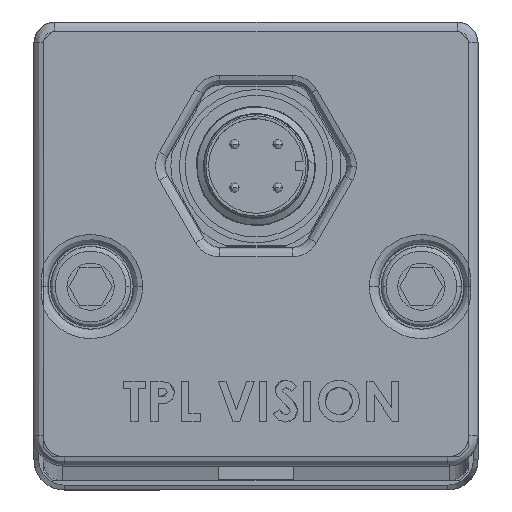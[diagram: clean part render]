
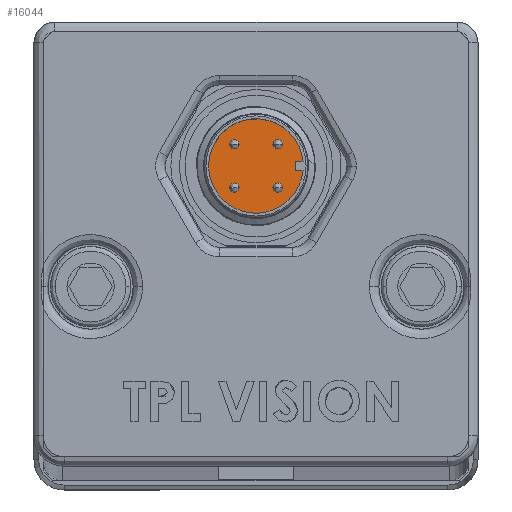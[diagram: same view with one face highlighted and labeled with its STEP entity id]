
A CAD part, top view. The second image highlights one B-rep face of the part: STEP entity #16044.
In plain terms, the highlighted planar face has unit normal (0, 0, 1).
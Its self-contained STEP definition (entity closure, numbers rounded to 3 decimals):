
#717 = CARTESIAN_POINT ( 'NONE',  ( -23.7, 18.774, 1009.1 ) ) ;
#1114 = CARTESIAN_POINT ( 'NONE',  ( -19.104, 14.178, 1009.1 ) ) ;
#1121 = CARTESIAN_POINT ( 'NONE',  ( -19.104, 18.774, 1009.1 ) ) ;
#1155 = CARTESIAN_POINT ( 'NONE',  ( -24.7, 14.178, 1009.1 ) ) ;
#1255 = CARTESIAN_POINT ( 'NONE',  ( -20.104, 14.178, 1009.1 ) ) ;
#1256 = DIRECTION ( 'NONE',  ( 1., 0., 0. ) ) ;
#1257 = DIRECTION ( 'NONE',  ( 0., 0., 1. ) ) ;
#1258 = CARTESIAN_POINT ( 'NONE',  ( -19.604, 14.178, 1009.1 ) ) ;
#1259 = AXIS2_PLACEMENT_3D ( 'NONE', #1258, #1257, #1256 ) ;
#1260 = CIRCLE ( 'NONE', #1259, 0.5 ) ;
#1263 = CARTESIAN_POINT ( 'NONE',  ( -24.7, 18.774, 1009.1 ) ) ;
#1366 = AXIS2_PLACEMENT_3D ( 'NONE', #1451, #1450, #1449 ) ;
#1367 = CIRCLE ( 'NONE', #1366, 0.5 ) ;
#1448 = CARTESIAN_POINT ( 'NONE',  ( -20.104, 18.774, 1009.1 ) ) ;
#1449 = DIRECTION ( 'NONE',  ( 1., 0., 0. ) ) ;
#1450 = DIRECTION ( 'NONE',  ( 0., 0., 1. ) ) ;
#1451 = CARTESIAN_POINT ( 'NONE',  ( -19.604, 18.774, 1009.1 ) ) ;
#1974 = DIRECTION ( 'NONE',  ( 0., 0., 1. ) ) ;
#1975 = CARTESIAN_POINT ( 'NONE',  ( -24.2, 18.774, 1009.1 ) ) ;
#1976 = AXIS2_PLACEMENT_3D ( 'NONE', #1975, #1974, #2050 ) ;
#1977 = CIRCLE ( 'NONE', #1976, 0.5 ) ;
#2050 = DIRECTION ( 'NONE',  ( 1., 0., 0. ) ) ;
#11154 = VERTEX_POINT ( 'NONE', #36321 ) ;
#11156 = EDGE_CURVE ( 'NONE', #11154, #11520, #36319, .T. ) ;
#11446 = VERTEX_POINT ( 'NONE', #717 ) ;
#11518 = VERTEX_POINT ( 'NONE', #1121 ) ;
#11520 = VERTEX_POINT ( 'NONE', #1155 ) ;
#11530 = VERTEX_POINT ( 'NONE', #1114 ) ;
#11544 = EDGE_CURVE ( 'NONE', #11530, #11545, #1260, .T. ) ;
#11545 = VERTEX_POINT ( 'NONE', #1255 ) ;
#11638 = VERTEX_POINT ( 'NONE', #1263 ) ;
#11657 = EDGE_CURVE ( 'NONE', #11518, #11658, #1367, .T. ) ;
#11658 = VERTEX_POINT ( 'NONE', #1448 ) ;
#11702 = EDGE_CURVE ( 'NONE', #11446, #11638, #1977, .T. ) ;
#15486 = EDGE_CURVE ( 'NONE', #15571, #15610, #22520, .T. ) ;
#15557 = EDGE_CURVE ( 'NONE', #11545, #11530, #22625, .T. ) ;
#15565 = EDGE_CURVE ( 'NONE', #11658, #11518, #22605, .T. ) ;
#15569 = EDGE_CURVE ( 'NONE', #15570, #15571, #22660, .T. ) ;
#15570 = VERTEX_POINT ( 'NONE', #22655 ) ;
#15571 = VERTEX_POINT ( 'NONE', #22656 ) ;
#15597 = EDGE_CURVE ( 'NONE', #15598, #15570, #22980, .T. ) ;
#15598 = VERTEX_POINT ( 'NONE', #22976 ) ;
#15609 = EDGE_CURVE ( 'NONE', #15610, #15598, #22963, .T. ) ;
#15610 = VERTEX_POINT ( 'NONE', #22959 ) ;
#15675 = EDGE_CURVE ( 'NONE', #11638, #11446, #23700, .T. ) ;
#15682 = EDGE_CURVE ( 'NONE', #11520, #11154, #23742, .T. ) ;
#15811 = ORIENTED_EDGE ( 'NONE', *, *, #15565, .F. ) ;
#15813 = ORIENTED_EDGE ( 'NONE', *, *, #11657, .F. ) ;
#15897 = ORIENTED_EDGE ( 'NONE', *, *, #11544, .F. ) ;
#15980 = EDGE_LOOP ( 'NONE', ( #15982, #16334 ) ) ;
#15982 = ORIENTED_EDGE ( 'NONE', *, *, #15675, .F. ) ;
#16044 = ADVANCED_FACE ( 'NONE', ( #28106, #28105, #28104, #28103, #28102 ), #28076, .T. ) ;
#16060 = EDGE_LOOP ( 'NONE', ( #16061, #16062, #16063, #16064 ) ) ;
#16061 = ORIENTED_EDGE ( 'NONE', *, *, #15609, .T. ) ;
#16062 = ORIENTED_EDGE ( 'NONE', *, *, #15597, .T. ) ;
#16063 = ORIENTED_EDGE ( 'NONE', *, *, #15569, .T. ) ;
#16064 = ORIENTED_EDGE ( 'NONE', *, *, #15486, .T. ) ;
#16065 = EDGE_LOOP ( 'NONE', ( #16332, #15897 ) ) ;
#16100 = EDGE_LOOP ( 'NONE', ( #16102, #16104 ) ) ;
#16102 = ORIENTED_EDGE ( 'NONE', *, *, #15682, .F. ) ;
#16104 = ORIENTED_EDGE ( 'NONE', *, *, #11156, .F. ) ;
#16105 = EDGE_LOOP ( 'NONE', ( #15811, #15813 ) ) ;
#16332 = ORIENTED_EDGE ( 'NONE', *, *, #15557, .F. ) ;
#16334 = ORIENTED_EDGE ( 'NONE', *, *, #11702, .F. ) ;
#22516 = DIRECTION ( 'NONE',  ( 1., 0., 0. ) ) ;
#22517 = DIRECTION ( 'NONE',  ( 0., 0., 1. ) ) ;
#22518 = CARTESIAN_POINT ( 'NONE',  ( -21.902, 16.476, 1009.1 ) ) ;
#22519 = AXIS2_PLACEMENT_3D ( 'NONE', #22518, #22517, #22516 ) ;
#22520 = CIRCLE ( 'NONE', #22519, 5. ) ;
#22597 = DIRECTION ( 'NONE',  ( 0., 0., 1. ) ) ;
#22598 = CARTESIAN_POINT ( 'NONE',  ( -19.604, 18.774, 1009.1 ) ) ;
#22599 = AXIS2_PLACEMENT_3D ( 'NONE', #22598, #22597, #22681 ) ;
#22605 = CIRCLE ( 'NONE', #22599, 0.5 ) ;
#22622 = DIRECTION ( 'NONE',  ( 1., 0., 0. ) ) ;
#22623 = DIRECTION ( 'NONE',  ( 0., 0., 1. ) ) ;
#22624 = AXIS2_PLACEMENT_3D ( 'NONE', #22685, #22623, #22622 ) ;
#22625 = CIRCLE ( 'NONE', #22624, 0.5 ) ;
#22655 = CARTESIAN_POINT ( 'NONE',  ( -17.727, 16.976, 1009.1 ) ) ;
#22656 = CARTESIAN_POINT ( 'NONE',  ( -16.927, 16.976, 1009.1 ) ) ;
#22657 = DIRECTION ( 'NONE',  ( 1., 0., 0. ) ) ;
#22658 = VECTOR ( 'NONE', #22657, 1000. ) ;
#22659 = CARTESIAN_POINT ( 'NONE',  ( -16.927, 16.976, 1009.1 ) ) ;
#22660 = LINE ( 'NONE', #22659, #22658 ) ;
#22681 = DIRECTION ( 'NONE',  ( 1., 0., 0. ) ) ;
#22685 = CARTESIAN_POINT ( 'NONE',  ( -19.604, 14.178, 1009.1 ) ) ;
#22959 = CARTESIAN_POINT ( 'NONE',  ( -16.927, 15.976, 1009.1 ) ) ;
#22960 = DIRECTION ( 'NONE',  ( -1., 0., 0. ) ) ;
#22961 = VECTOR ( 'NONE', #22960, 1000. ) ;
#22962 = CARTESIAN_POINT ( 'NONE',  ( -17.727, 15.976, 1009.1 ) ) ;
#22963 = LINE ( 'NONE', #22962, #22961 ) ;
#22976 = CARTESIAN_POINT ( 'NONE',  ( -17.727, 15.976, 1009.1 ) ) ;
#22977 = DIRECTION ( 'NONE',  ( 0., 1., 0. ) ) ;
#22978 = VECTOR ( 'NONE', #22977, 1000. ) ;
#22979 = CARTESIAN_POINT ( 'NONE',  ( -17.727, 16.976, 1009.1 ) ) ;
#22980 = LINE ( 'NONE', #22979, #22978 ) ;
#23696 = DIRECTION ( 'NONE',  ( 1., 0., 0. ) ) ;
#23697 = DIRECTION ( 'NONE',  ( 0., 0., 1. ) ) ;
#23698 = CARTESIAN_POINT ( 'NONE',  ( -24.2, 18.774, 1009.1 ) ) ;
#23699 = AXIS2_PLACEMENT_3D ( 'NONE', #23698, #23697, #23696 ) ;
#23700 = CIRCLE ( 'NONE', #23699, 0.5 ) ;
#23734 = DIRECTION ( 'NONE',  ( 0., 0., 1. ) ) ;
#23735 = CARTESIAN_POINT ( 'NONE',  ( -24.2, 14.178, 1009.1 ) ) ;
#23736 = AXIS2_PLACEMENT_3D ( 'NONE', #23735, #23734, #23786 ) ;
#23742 = CIRCLE ( 'NONE', #23736, 0.5 ) ;
#23786 = DIRECTION ( 'NONE',  ( 1., 0., 0. ) ) ;
#28064 = DIRECTION ( 'NONE',  ( 1., 0., 0. ) ) ;
#28066 = DIRECTION ( 'NONE',  ( 0., 0., 1. ) ) ;
#28067 = CARTESIAN_POINT ( 'NONE',  ( -21.902, 16.476, 1009.1 ) ) ;
#28069 = AXIS2_PLACEMENT_3D ( 'NONE', #28067, #28066, #28064 ) ;
#28076 = PLANE ( 'NONE',  #28069 ) ;
#28102 = FACE_BOUND ( 'NONE', #15980, .T. ) ;
#28103 = FACE_BOUND ( 'NONE', #16065, .T. ) ;
#28104 = FACE_OUTER_BOUND ( 'NONE', #16060, .T. ) ;
#28105 = FACE_BOUND ( 'NONE', #16105, .T. ) ;
#28106 = FACE_BOUND ( 'NONE', #16100, .T. ) ;
#36315 = DIRECTION ( 'NONE',  ( 1., 0., 0. ) ) ;
#36316 = DIRECTION ( 'NONE',  ( 0., 0., 1. ) ) ;
#36317 = CARTESIAN_POINT ( 'NONE',  ( -24.2, 14.178, 1009.1 ) ) ;
#36318 = AXIS2_PLACEMENT_3D ( 'NONE', #36317, #36316, #36315 ) ;
#36319 = CIRCLE ( 'NONE', #36318, 0.5 ) ;
#36321 = CARTESIAN_POINT ( 'NONE',  ( -23.7, 14.178, 1009.1 ) ) ;
